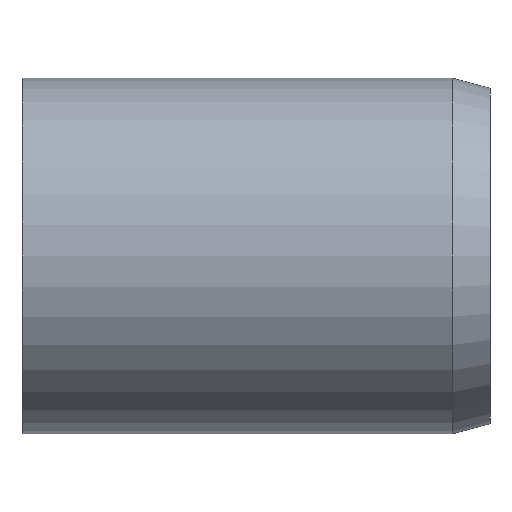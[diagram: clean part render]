
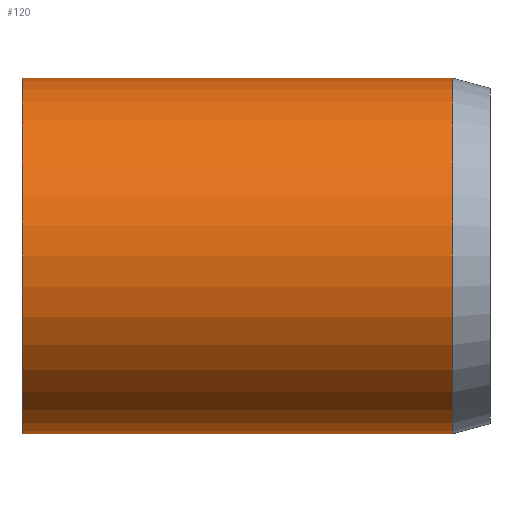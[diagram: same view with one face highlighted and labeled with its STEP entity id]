
A CAD part, front view. The second image highlights one B-rep face of the part: STEP entity #120.
In plain terms, the highlighted cylindrical face has radius 19 mm (diameter 38 mm), a full revolution.
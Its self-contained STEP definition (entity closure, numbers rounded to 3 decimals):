
#20=LINE('',#229,#23);
#23=VECTOR('',#197,19.);
#26=CYLINDRICAL_SURFACE('',#157,19.);
#32=FACE_OUTER_BOUND('',#41,.T.);
#41=EDGE_LOOP('',(#97,#98,#99,#100));
#49=CIRCLE('',#151,19.);
#53=CIRCLE('',#158,19.);
#59=VERTEX_POINT('',#217);
#62=VERTEX_POINT('',#227);
#70=EDGE_CURVE('',#59,#59,#49,.T.);
#74=EDGE_CURVE('',#62,#62,#53,.T.);
#75=EDGE_CURVE('',#62,#59,#20,.T.);
#97=ORIENTED_EDGE('',*,*,#74,.F.);
#98=ORIENTED_EDGE('',*,*,#75,.T.);
#99=ORIENTED_EDGE('',*,*,#70,.T.);
#100=ORIENTED_EDGE('',*,*,#75,.F.);
#120=ADVANCED_FACE('',(#32),#26,.T.);
#151=AXIS2_PLACEMENT_3D('',#218,#181,#182);
#157=AXIS2_PLACEMENT_3D('',#226,#193,#194);
#158=AXIS2_PLACEMENT_3D('',#228,#195,#196);
#181=DIRECTION('center_axis',(1.,0.,0.));
#182=DIRECTION('ref_axis',(0.,0.,-1.));
#193=DIRECTION('center_axis',(1.,0.,0.));
#194=DIRECTION('ref_axis',(0.,1.,0.));
#195=DIRECTION('center_axis',(1.,0.,0.));
#196=DIRECTION('ref_axis',(0.,0.,-1.));
#197=DIRECTION('',(-1.,0.,0.));
#217=CARTESIAN_POINT('',(0.,-19.,0.));
#218=CARTESIAN_POINT('Origin',(0.,0.,0.));
#226=CARTESIAN_POINT('Origin',(23.,0.,0.));
#227=CARTESIAN_POINT('',(46.,-19.,0.));
#228=CARTESIAN_POINT('Origin',(46.,0.,0.));
#229=CARTESIAN_POINT('',(23.,-19.,0.));
